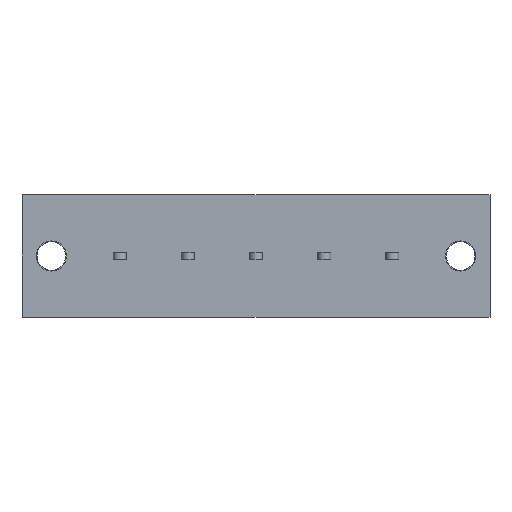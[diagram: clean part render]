
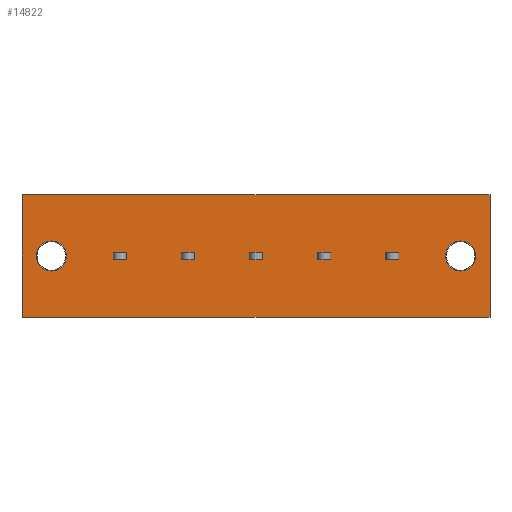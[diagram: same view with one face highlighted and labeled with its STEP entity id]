
A CAD part, front view. The second image highlights one B-rep face of the part: STEP entity #14822.
In plain terms, the highlighted planar face has unit normal (0, -1, 0).
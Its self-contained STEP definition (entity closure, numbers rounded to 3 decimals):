
#671=CIRCLE('',#15335,2.1);
#807=CIRCLE('',#15819,2.1);
#957=VERTEX_POINT('',#19553);
#958=VERTEX_POINT('',#19554);
#961=VERTEX_POINT('',#19562);
#973=VERTEX_POINT('',#19600);
#1065=VERTEX_POINT('',#19870);
#1396=VERTEX_POINT('',#21342);
#1397=VERTEX_POINT('',#21344);
#1441=VERTEX_POINT('',#21532);
#1442=VERTEX_POINT('',#21533);
#1445=VERTEX_POINT('',#21541);
#1473=VERTEX_POINT('',#21612);
#1571=VERTEX_POINT('',#21961);
#1572=VERTEX_POINT('',#21962);
#1575=VERTEX_POINT('',#21970);
#1603=VERTEX_POINT('',#22041);
#1744=VERTEX_POINT('',#22492);
#1754=VERTEX_POINT('',#22516);
#1755=VERTEX_POINT('',#22518);
#1756=VERTEX_POINT('',#22519);
#1757=VERTEX_POINT('',#22521);
#1758=VERTEX_POINT('',#22523);
#1759=VERTEX_POINT('',#22526);
#1760=VERTEX_POINT('',#22527);
#1761=VERTEX_POINT('',#22529);
#1762=VERTEX_POINT('',#22531);
#1763=VERTEX_POINT('',#22534);
#2468=VECTOR('',#16340,1.);
#2471=VECTOR('',#16346,1.);
#2483=VECTOR('',#16382,1.);
#2485=VECTOR('',#16385,1.);
#2976=VECTOR('',#17116,1.);
#3013=VECTOR('',#17264,1.);
#3016=VECTOR('',#17270,1.);
#3042=VECTOR('',#17325,1.);
#3044=VECTOR('',#17328,1.);
#3141=VECTOR('',#17602,1.);
#3144=VECTOR('',#17608,1.);
#3170=VECTOR('',#17663,1.);
#3172=VECTOR('',#17666,1.);
#3304=VECTOR('',#18017,1.);
#3317=VECTOR('',#18033,1.);
#3318=VECTOR('',#18034,1.);
#3319=VECTOR('',#18035,1.);
#3320=VECTOR('',#18036,1.);
#3321=VECTOR('',#18037,1.);
#3322=VECTOR('',#18038,1.);
#3323=VECTOR('',#18039,1.);
#3324=VECTOR('',#18040,1.);
#3325=VECTOR('',#18041,1.);
#3326=VECTOR('',#18042,1.);
#4098=LINE('',#19552,#2468);
#4101=LINE('',#19561,#2471);
#4113=LINE('',#19599,#2483);
#4115=LINE('',#19603,#2485);
#4606=LINE('',#21343,#2976);
#4643=LINE('',#21531,#3013);
#4646=LINE('',#21540,#3016);
#4672=LINE('',#21611,#3042);
#4674=LINE('',#21615,#3044);
#4771=LINE('',#21960,#3141);
#4774=LINE('',#21969,#3144);
#4800=LINE('',#22040,#3170);
#4802=LINE('',#22044,#3172);
#4934=LINE('',#22491,#3304);
#4947=LINE('',#22517,#3317);
#4948=LINE('',#22520,#3318);
#4949=LINE('',#22522,#3319);
#4950=LINE('',#22524,#3320);
#4951=LINE('',#22525,#3321);
#4952=LINE('',#22528,#3322);
#4953=LINE('',#22530,#3323);
#4954=LINE('',#22532,#3324);
#4955=LINE('',#22533,#3325);
#4956=LINE('',#22535,#3326);
#5730=EDGE_CURVE('',#957,#958,#4098,.T.);
#5734=EDGE_CURVE('',#958,#961,#4101,.T.);
#5753=EDGE_CURVE('',#973,#957,#4113,.T.);
#5755=EDGE_CURVE('',#961,#973,#4115,.T.);
#5887=EDGE_CURVE('',#1065,#1065,#671,.T.);
#6381=EDGE_CURVE('',#1396,#1397,#4606,.T.);
#6455=EDGE_CURVE('',#1441,#1442,#4643,.T.);
#6459=EDGE_CURVE('',#1442,#1445,#4646,.T.);
#6494=EDGE_CURVE('',#1473,#1441,#4672,.T.);
#6496=EDGE_CURVE('',#1445,#1473,#4674,.T.);
#6649=EDGE_CURVE('',#1571,#1572,#4771,.T.);
#6653=EDGE_CURVE('',#1572,#1575,#4774,.T.);
#6688=EDGE_CURVE('',#1603,#1571,#4800,.T.);
#6690=EDGE_CURVE('',#1575,#1603,#4802,.T.);
#6893=EDGE_CURVE('',#1744,#1396,#4934,.T.);
#6906=EDGE_CURVE('',#1754,#1754,#807,.T.);
#6907=EDGE_CURVE('',#1755,#1756,#4947,.T.);
#6908=EDGE_CURVE('',#1756,#1757,#4948,.T.);
#6909=EDGE_CURVE('',#1757,#1758,#4949,.T.);
#6910=EDGE_CURVE('',#1758,#1755,#4950,.T.);
#6911=EDGE_CURVE('',#1759,#1760,#4951,.T.);
#6912=EDGE_CURVE('',#1760,#1761,#4952,.T.);
#6913=EDGE_CURVE('',#1761,#1762,#4953,.T.);
#6914=EDGE_CURVE('',#1762,#1759,#4954,.T.);
#6915=EDGE_CURVE('',#1763,#1397,#4955,.T.);
#6916=EDGE_CURVE('',#1763,#1744,#4956,.T.);
#10248=ORIENTED_EDGE('',*,*,#5730,.T.);
#10249=ORIENTED_EDGE('',*,*,#5734,.T.);
#10250=ORIENTED_EDGE('',*,*,#5755,.T.);
#10251=ORIENTED_EDGE('',*,*,#5753,.T.);
#10252=ORIENTED_EDGE('',*,*,#5887,.T.);
#10253=ORIENTED_EDGE('',*,*,#6906,.T.);
#10254=ORIENTED_EDGE('',*,*,#6455,.T.);
#10255=ORIENTED_EDGE('',*,*,#6459,.T.);
#10256=ORIENTED_EDGE('',*,*,#6496,.T.);
#10257=ORIENTED_EDGE('',*,*,#6494,.T.);
#10258=ORIENTED_EDGE('',*,*,#6907,.T.);
#10259=ORIENTED_EDGE('',*,*,#6908,.T.);
#10260=ORIENTED_EDGE('',*,*,#6909,.T.);
#10261=ORIENTED_EDGE('',*,*,#6910,.T.);
#10262=ORIENTED_EDGE('',*,*,#6649,.T.);
#10263=ORIENTED_EDGE('',*,*,#6653,.T.);
#10264=ORIENTED_EDGE('',*,*,#6690,.T.);
#10265=ORIENTED_EDGE('',*,*,#6688,.T.);
#10266=ORIENTED_EDGE('',*,*,#6911,.T.);
#10267=ORIENTED_EDGE('',*,*,#6912,.T.);
#10268=ORIENTED_EDGE('',*,*,#6913,.T.);
#10269=ORIENTED_EDGE('',*,*,#6914,.T.);
#10270=ORIENTED_EDGE('',*,*,#6915,.T.);
#10271=ORIENTED_EDGE('',*,*,#6381,.F.);
#10272=ORIENTED_EDGE('',*,*,#6893,.F.);
#10273=ORIENTED_EDGE('',*,*,#6916,.F.);
#12946=EDGE_LOOP('',(#10248,#10249,#10250,#10251));
#12947=EDGE_LOOP('',(#10252));
#12948=EDGE_LOOP('',(#10253));
#12949=EDGE_LOOP('',(#10254,#10255,#10256,#10257));
#12950=EDGE_LOOP('',(#10258,#10259,#10260,#10261));
#12951=EDGE_LOOP('',(#10262,#10263,#10264,#10265));
#12952=EDGE_LOOP('',(#10266,#10267,#10268,#10269));
#12953=EDGE_LOOP('',(#10270,#10271,#10272,#10273));
#13908=FACE_BOUND('',#12946,.T.);
#13909=FACE_BOUND('',#12947,.T.);
#13910=FACE_BOUND('',#12948,.T.);
#13911=FACE_BOUND('',#12949,.T.);
#13912=FACE_BOUND('',#12950,.T.);
#13913=FACE_BOUND('',#12951,.T.);
#13914=FACE_BOUND('',#12952,.T.);
#13915=FACE_BOUND('',#12953,.T.);
#14822=ADVANCED_FACE('',(#13908,#13909,#13910,#13911,#13912,#13913,#13914,
#13915),#25486,.T.);
#15335=AXIS2_PLACEMENT_3D('',#19869,#16596,#16597);
#15818=AXIS2_PLACEMENT_3D('',#22514,#18030,$);
#15819=AXIS2_PLACEMENT_3D('',#22515,#18031,#18032);
#16340=DIRECTION('',(1.,0.,0.));
#16346=DIRECTION('',(0.,0.,-1.));
#16382=DIRECTION('',(0.,0.,1.));
#16385=DIRECTION('',(-1.,0.,0.));
#16596=DIRECTION('',(0.,1.,0.));
#16597=DIRECTION('',(-2.1,0.,0.));
#17116=DIRECTION('',(0.,0.,-1.));
#17264=DIRECTION('',(1.,0.,0.));
#17270=DIRECTION('',(0.,0.,-1.));
#17325=DIRECTION('',(0.,0.,1.));
#17328=DIRECTION('',(-1.,0.,0.));
#17602=DIRECTION('',(1.,0.,0.));
#17608=DIRECTION('',(0.,0.,-1.));
#17663=DIRECTION('',(0.,0.,1.));
#17666=DIRECTION('',(-1.,0.,0.));
#18017=DIRECTION('',(1.,0.,0.));
#18030=DIRECTION('',(0.,-1.,0.));
#18031=DIRECTION('',(0.,1.,0.));
#18032=DIRECTION('',(2.1,0.,0.));
#18033=DIRECTION('',(1.,0.,0.));
#18034=DIRECTION('',(0.,0.,-1.));
#18035=DIRECTION('',(-1.,0.,0.));
#18036=DIRECTION('',(0.,0.,1.));
#18037=DIRECTION('',(1.,0.,0.));
#18038=DIRECTION('',(0.,0.,-1.));
#18039=DIRECTION('',(-1.,0.,0.));
#18040=DIRECTION('',(0.,0.,1.));
#18041=DIRECTION('',(1.,0.,0.));
#18042=DIRECTION('',(0.,0.,1.));
#19552=CARTESIAN_POINT('',(7.475,0.,0.5));
#19553=CARTESIAN_POINT('',(4.55,0.,0.5));
#19554=CARTESIAN_POINT('',(6.35,0.,0.5));
#19561=CARTESIAN_POINT('',(6.35,0.,1.75));
#19562=CARTESIAN_POINT('',(6.35,0.,-0.5));
#19599=CARTESIAN_POINT('',(4.55,0.,1.75));
#19600=CARTESIAN_POINT('',(4.55,0.,-0.5));
#19603=CARTESIAN_POINT('',(7.475,0.,-0.5));
#19869=CARTESIAN_POINT('',(52.95,0.,0.));
#19870=CARTESIAN_POINT('',(55.05,0.,0.));
#21342=CARTESIAN_POINT('',(57.05,0.,8.5));
#21343=CARTESIAN_POINT('',(57.05,0.,8.5));
#21344=CARTESIAN_POINT('',(57.05,0.,-8.5));
#21531=CARTESIAN_POINT('',(26.475,0.,0.5));
#21532=CARTESIAN_POINT('',(42.55,0.,0.5));
#21533=CARTESIAN_POINT('',(44.35,0.,0.5));
#21540=CARTESIAN_POINT('',(44.35,0.,1.75));
#21541=CARTESIAN_POINT('',(44.35,0.,-0.5));
#21611=CARTESIAN_POINT('',(42.55,0.,1.75));
#21612=CARTESIAN_POINT('',(42.55,0.,-0.5));
#21615=CARTESIAN_POINT('',(26.475,0.,-0.5));
#21960=CARTESIAN_POINT('',(16.975,0.,0.5));
#21961=CARTESIAN_POINT('',(23.55,0.,0.5));
#21962=CARTESIAN_POINT('',(25.35,0.,0.5));
#21969=CARTESIAN_POINT('',(25.35,0.,1.75));
#21970=CARTESIAN_POINT('',(25.35,0.,-0.5));
#22040=CARTESIAN_POINT('',(23.55,0.,1.75));
#22041=CARTESIAN_POINT('',(23.55,0.,-0.5));
#22044=CARTESIAN_POINT('',(16.975,0.,-0.5));
#22491=CARTESIAN_POINT('',(-8.15,0.,8.5));
#22492=CARTESIAN_POINT('',(-8.15,0.,8.5));
#22514=CARTESIAN_POINT('',(9.5,0.,0.));
#22515=CARTESIAN_POINT('',(-4.05,0.,0.));
#22516=CARTESIAN_POINT('',(-6.15,0.,0.));
#22517=CARTESIAN_POINT('',(21.725,0.,0.5));
#22518=CARTESIAN_POINT('',(33.05,0.,0.5));
#22519=CARTESIAN_POINT('',(34.85,0.,0.5));
#22520=CARTESIAN_POINT('',(34.85,0.,1.75));
#22521=CARTESIAN_POINT('',(34.85,0.,-0.5));
#22522=CARTESIAN_POINT('',(21.725,0.,-0.5));
#22523=CARTESIAN_POINT('',(33.05,0.,-0.5));
#22524=CARTESIAN_POINT('',(33.05,0.,1.75));
#22525=CARTESIAN_POINT('',(12.225,0.,0.5));
#22526=CARTESIAN_POINT('',(14.05,0.,0.5));
#22527=CARTESIAN_POINT('',(15.85,0.,0.5));
#22528=CARTESIAN_POINT('',(15.85,0.,1.75));
#22529=CARTESIAN_POINT('',(15.85,0.,-0.5));
#22530=CARTESIAN_POINT('',(12.225,0.,-0.5));
#22531=CARTESIAN_POINT('',(14.05,0.,-0.5));
#22532=CARTESIAN_POINT('',(14.05,0.,1.75));
#22533=CARTESIAN_POINT('',(-8.15,0.,-8.5));
#22534=CARTESIAN_POINT('',(-8.15,0.,-8.5));
#22535=CARTESIAN_POINT('',(-8.15,0.,-8.5));
#25486=PLANE('',#15818);
